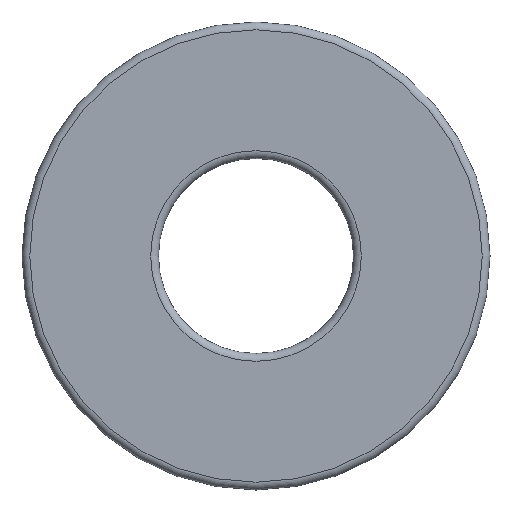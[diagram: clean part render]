
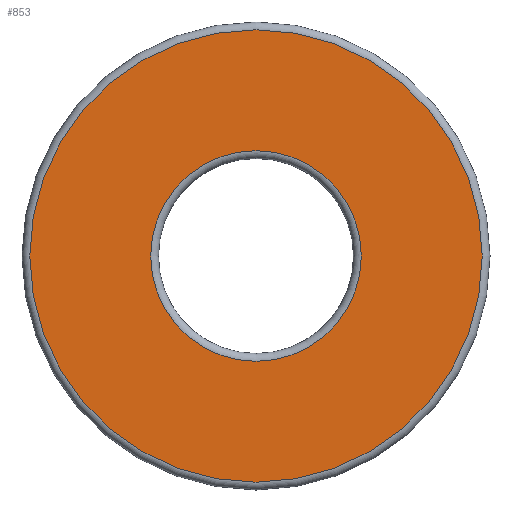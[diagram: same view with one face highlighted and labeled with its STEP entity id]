
A CAD part, front view. The second image highlights one B-rep face of the part: STEP entity #853.
In plain terms, the highlighted planar face has unit normal (0, -1, 0).
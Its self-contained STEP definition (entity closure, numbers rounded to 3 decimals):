
#119=PLANE('',#940);
#157=FACE_BOUND('',#328,.T.);
#249=FACE_OUTER_BOUND('',#327,.T.);
#327=EDGE_LOOP('',(#712));
#328=EDGE_LOOP('',(#713));
#464=CIRCLE('',#939,29.);
#465=CIRCLE('',#941,13.5);
#541=VERTEX_POINT('',#1431);
#542=VERTEX_POINT('',#1434);
#619=EDGE_CURVE('',#541,#541,#464,.T.);
#620=EDGE_CURVE('',#542,#542,#465,.T.);
#712=ORIENTED_EDGE('',*,*,#619,.F.);
#713=ORIENTED_EDGE('',*,*,#620,.F.);
#853=ADVANCED_FACE('',(#249,#157),#119,.T.);
#939=AXIS2_PLACEMENT_3D('',#1432,#1134,#1135);
#940=AXIS2_PLACEMENT_3D('',#1433,#1136,#1137);
#941=AXIS2_PLACEMENT_3D('',#1435,#1138,#1139);
#1134=DIRECTION('center_axis',(0.,1.,0.));
#1135=DIRECTION('ref_axis',(-1.,0.,0.));
#1136=DIRECTION('center_axis',(0.,-1.,0.));
#1137=DIRECTION('ref_axis',(0.,0.,-1.));
#1138=DIRECTION('center_axis',(0.,-1.,0.));
#1139=DIRECTION('ref_axis',(-1.,0.,0.));
#1431=CARTESIAN_POINT('',(29.,-12.,0.));
#1432=CARTESIAN_POINT('Origin',(0.,-12.,0.));
#1433=CARTESIAN_POINT('Origin',(12.5,-12.,0.));
#1434=CARTESIAN_POINT('',(13.5,-12.,0.));
#1435=CARTESIAN_POINT('Origin',(0.,-12.,0.));
